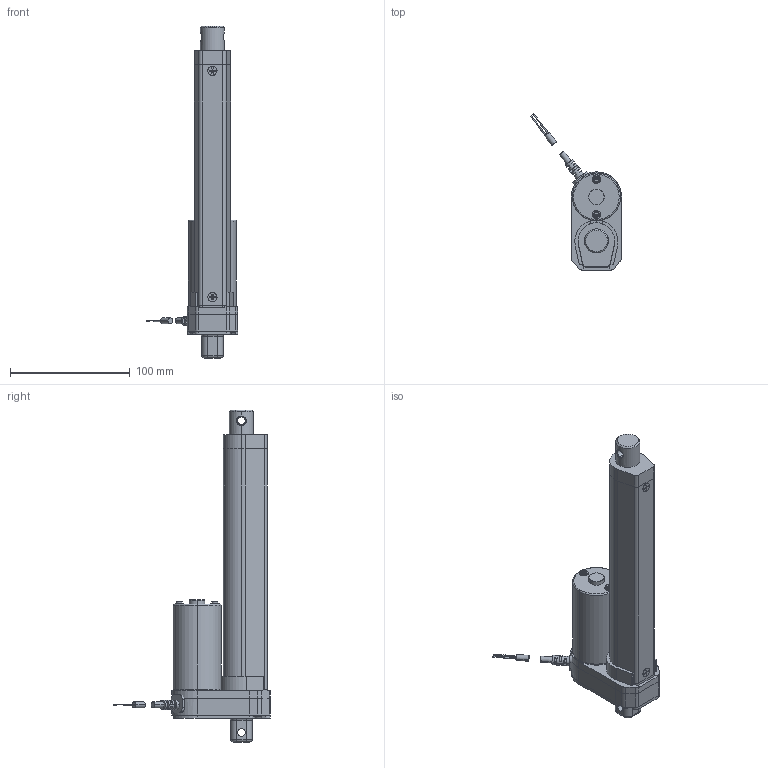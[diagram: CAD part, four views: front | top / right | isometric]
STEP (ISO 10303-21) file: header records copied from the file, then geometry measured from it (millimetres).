
FILE_DESCRIPTION (( 'STEP AP214' ), '1' );
FILE_NAME ('la3150.STEP', '2018-11-26T18:20:57', ( '' ), ( '' ), 'SwSTEP 2.0', 'SolidWorks 2017', '' );
FILE_SCHEMA (( 'AUTOMOTIVE_DESIGN' ));
Length unit declared in the file: inch
Products named in the file (1): la3150
Bounding box: 76.07 x 130.5 x 277 mm (x, y, z)
Volume: 422581.1 mm3; surface area: 83001.8 mm2
Topology: 17 solids, 17 shells, 427 faces, 1050 edges, 686 vertices
Faces by surface type: plane 232, cylinder 159, torus 22, cone 10, bspline 4
Entity records: 21322 total; most frequent: CARTESIAN_POINT 5107, DIRECTION 2266, ORIENTED_EDGE 2100, EDGE_CURVE 1050, AXIS2_PLACEMENT_3D 812, VERTEX_POINT 686, VECTOR 642, LINE 642
